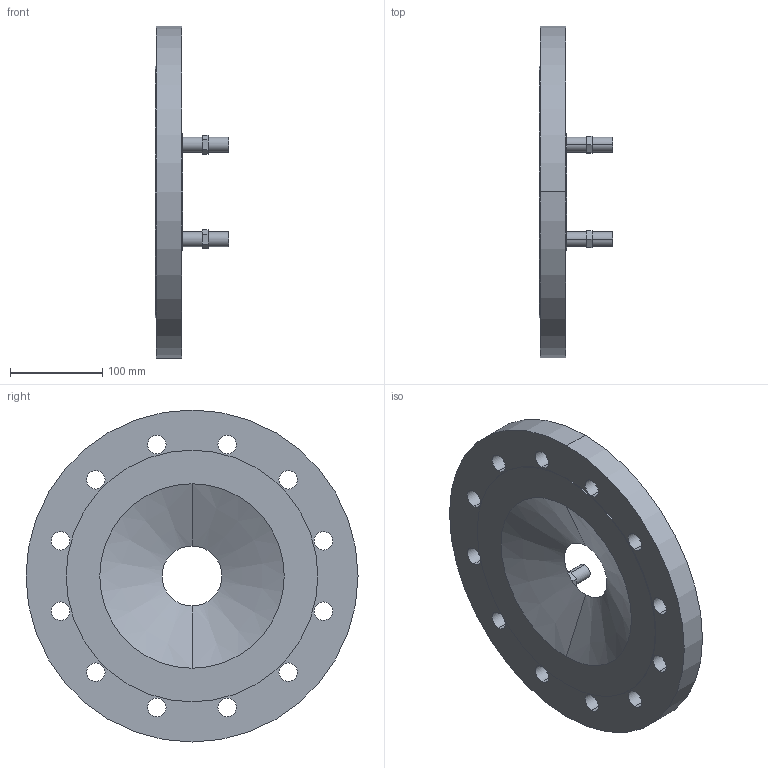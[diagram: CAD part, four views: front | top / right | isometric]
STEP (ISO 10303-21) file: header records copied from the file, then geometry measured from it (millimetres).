
FILE_DESCRIPTION(('STEP AP214'),'1');
FILE_NAME('S:/EK/USER/CAT6/3DHomepage_27-04-2012/VDI-Rohrsysteme_und_Stahlrohre/0802_(8110)/0802_PN16_DN200_DN65.STP','2013-01-25T07:25:08',(' '),(' '),'Spatial InterOp 3D',' ',' ');
FILE_SCHEMA(('automotive_design'));
Length unit declared in the file: millimetre
Products named in the file (10): 3D-Objekt
Bounding box: 80 x 360 x 360 mm (x, y, z)
Volume: 2413649.4 mm3; surface area: 309615.5 mm2
Topology: 10 solids, 10 shells, 87 faces, 198 edges, 132 vertices
Faces by surface type: plane 45, cylinder 40, cone 2
Entity records: 3460 total; most frequent: DIRECTION 476, CARTESIAN_POINT 427, ORIENTED_EDGE 396, EDGE_CURVE 198, AXIS2_PLACEMENT_3D 181, VERTEX_POINT 132, EDGE_LOOP 116, LINE 114
